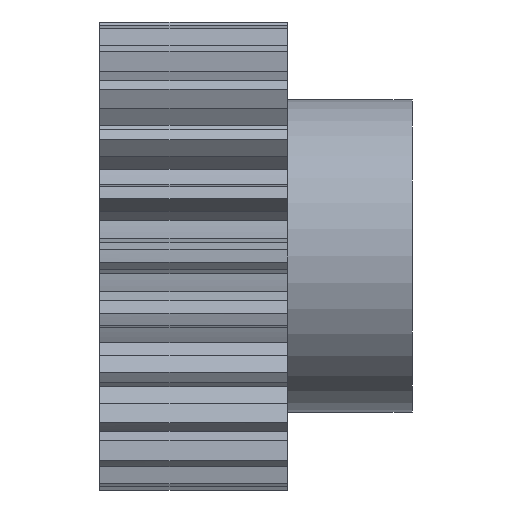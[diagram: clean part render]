
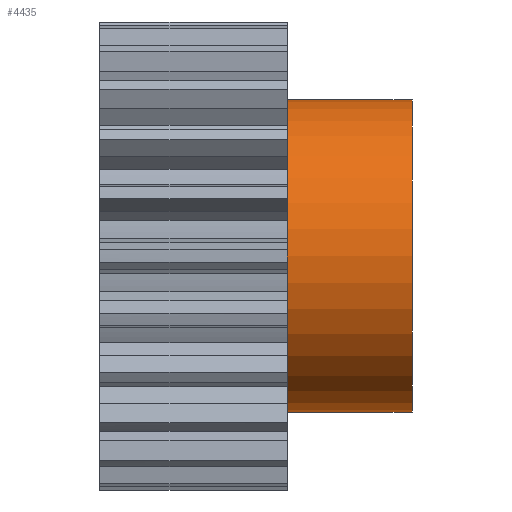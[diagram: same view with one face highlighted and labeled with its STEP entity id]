
A CAD part, front view. The second image highlights one B-rep face of the part: STEP entity #4435.
In plain terms, the highlighted cylindrical face has radius 25 mm (diameter 50 mm), a partial arc.
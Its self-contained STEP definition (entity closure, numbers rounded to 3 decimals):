
#388 = ORIENTED_EDGE ( 'NONE', *, *, #530, .T. ) ;
#391 = ORIENTED_EDGE ( 'NONE', *, *, #774, .F. ) ;
#397 = ORIENTED_EDGE ( 'NONE', *, *, #523, .T. ) ;
#523 = EDGE_CURVE ( 'NONE', #778, #745, #1942, .T. ) ;
#530 = EDGE_CURVE ( 'NONE', #775, #780, #1956, .T. ) ;
#745 = VERTEX_POINT ( 'NONE', #2199 ) ;
#774 = EDGE_CURVE ( 'NONE', #775, #745, #2268, .T. ) ;
#775 = VERTEX_POINT ( 'NONE', #2264 ) ;
#778 = VERTEX_POINT ( 'NONE', #2253 ) ;
#780 = VERTEX_POINT ( 'NONE', #2248 ) ;
#782 = EDGE_CURVE ( 'NONE', #780, #778, #2297, .T. ) ;
#1291 = DIRECTION ( 'NONE',  ( 0., 0., 1. ) ) ;
#1942 = CIRCLE ( 'NONE', #1968, 25. ) ;
#1956 = CIRCLE ( 'NONE', #1962, 25. ) ;
#1961 = DIRECTION ( 'NONE',  ( -1., 0., 0. ) ) ;
#1962 = AXIS2_PLACEMENT_3D ( 'NONE', #1965, #1961, #1291 ) ;
#1965 = CARTESIAN_POINT ( 'NONE',  ( 35., 0., 0. ) ) ;
#1966 = DIRECTION ( 'NONE',  ( 0., 0., 1. ) ) ;
#1967 = DIRECTION ( 'NONE',  ( 1., 0., 0. ) ) ;
#1968 = AXIS2_PLACEMENT_3D ( 'NONE', #1970, #1967, #1966 ) ;
#1970 = CARTESIAN_POINT ( 'NONE',  ( 15., 0., 0. ) ) ;
#2199 = CARTESIAN_POINT ( 'NONE',  ( 15., 0., -25. ) ) ;
#2228 = DIRECTION ( 'NONE',  ( -1., 0., 0. ) ) ;
#2229 = VECTOR ( 'NONE', #2228, 1000. ) ;
#2248 = CARTESIAN_POINT ( 'NONE',  ( 35., 0., 25. ) ) ;
#2253 = CARTESIAN_POINT ( 'NONE',  ( 15., 0., 25. ) ) ;
#2264 = CARTESIAN_POINT ( 'NONE',  ( 35., 0., -25. ) ) ;
#2267 = CARTESIAN_POINT ( 'NONE',  ( 15., 0., -25. ) ) ;
#2268 = LINE ( 'NONE', #2267, #2229 ) ;
#2292 = DIRECTION ( 'NONE',  ( -1., 0., 0. ) ) ;
#2293 = VECTOR ( 'NONE', #2292, 1000. ) ;
#2294 = CARTESIAN_POINT ( 'NONE',  ( 15., 0., 25. ) ) ;
#2297 = LINE ( 'NONE', #2294, #2293 ) ;
#3128 = CYLINDRICAL_SURFACE ( 'NONE', #3181, 25. ) ;
#3146 = FACE_OUTER_BOUND ( 'NONE', #4308, .T. ) ;
#3151 = CARTESIAN_POINT ( 'NONE',  ( 15., 0., 0. ) ) ;
#3172 = DIRECTION ( 'NONE',  ( 0., 0., 1. ) ) ;
#3173 = DIRECTION ( 'NONE',  ( -1., 0., 0. ) ) ;
#3181 = AXIS2_PLACEMENT_3D ( 'NONE', #3151, #3173, #3172 ) ;
#4308 = EDGE_LOOP ( 'NONE', ( #391, #388, #4519, #397 ) ) ;
#4435 = ADVANCED_FACE ( 'NONE', ( #3146 ), #3128, .T. ) ;
#4519 = ORIENTED_EDGE ( 'NONE', *, *, #782, .T. ) ;
